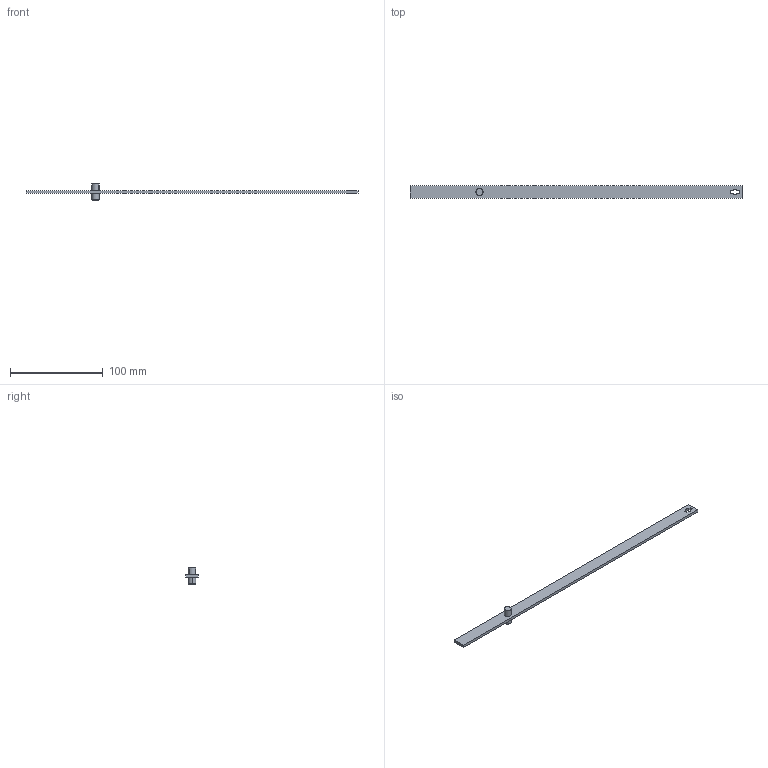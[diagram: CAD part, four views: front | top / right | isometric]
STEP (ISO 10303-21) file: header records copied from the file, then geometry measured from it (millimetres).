
FILE_DESCRIPTION (( 'STEP AP214' ), '1' );
FILE_NAME ('PP18-351.STEP', '2016-09-08T07:56:15', ( '' ), ( '' ), 'SwSTEP 2.0', 'SolidWorks 2015', '' );
FILE_SCHEMA (( 'AUTOMOTIVE_DESIGN' ));
Length unit declared in the file: millimetre
Products named in the file (4): 1C.PDB.02.02.00_A; 1C.PDB.02.01.00_A; 1C.PD.B.Z.X.Y.01_PP18-351; PP18-351
Assembly tree (3 placements, depth 2):
  PP18-351
    1C.PD.B.Z.X.Y.01_PP18-351
    1C.PDB.02.01.00_A
    1C.PDB.02.02.00_A
Bounding box: 358.5 x 14 x 18.1 mm (x, y, z)
Volume: 15689.2 mm3; surface area: 13064.5 mm2
Topology: 3 solids, 3 shells, 46 faces, 102 edges, 63 vertices
Faces by surface type: plane 18, cylinder 16, cone 12
Entity records: 1424 total; most frequent: DIRECTION 246, CARTESIAN_POINT 215, ORIENTED_EDGE 200, EDGE_CURVE 100, AXIS2_PLACEMENT_3D 94, VERTEX_POINT 63, VECTOR 58, LINE 58
